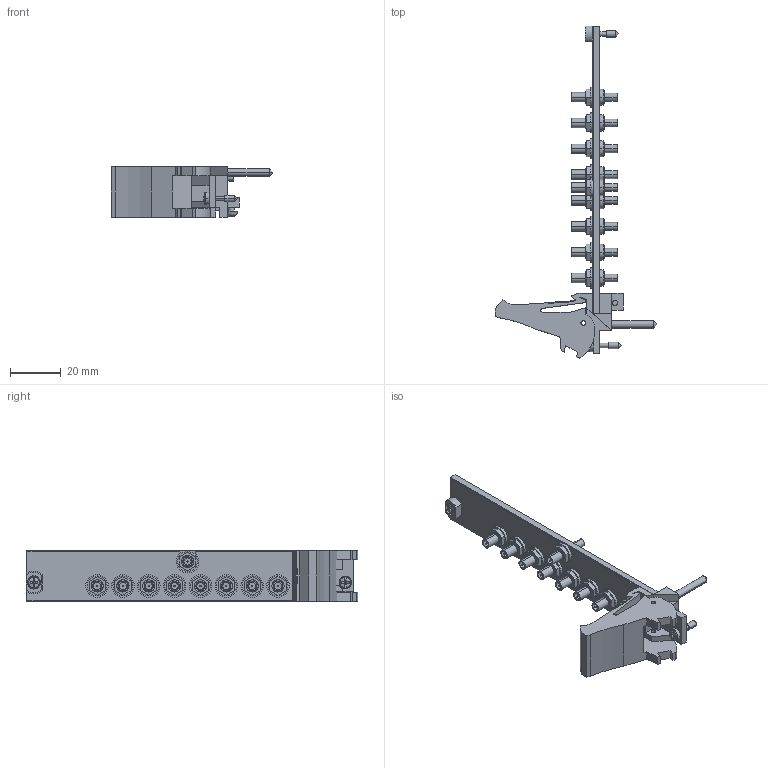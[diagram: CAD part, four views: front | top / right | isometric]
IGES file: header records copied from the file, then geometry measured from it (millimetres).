
Start section:  PTC IGES file: cu_pxi-2557.igs
Global section: file name: cu_pxi-2557.igs; native system: Pro/ENGINEER by Parametric Technology Corporation; preprocessor: 2006080; author: jjorden; organization: Unknown; date: 091005.161447; units: inch
Bounding box: 63.53 x 130.5 x 20.02 mm (x, y, z)
Surface area: 16311.9 mm2 (no closed solid volume)
Topology: 0 solids, 0 shells, 694 faces, 3196 edges, 3188 vertices
Faces by surface type: bspline 404, revolution 290
